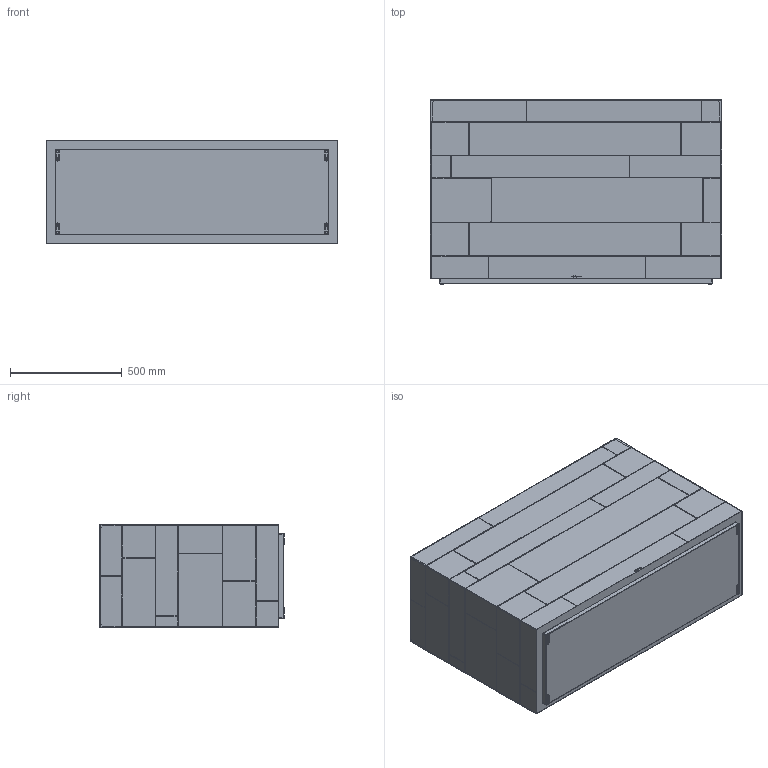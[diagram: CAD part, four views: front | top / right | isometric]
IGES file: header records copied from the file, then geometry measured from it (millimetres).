
Start section: SolidWorks IGES file using analytic representation for surfaces
Global section: file name: \\UTENTI\Dati Utenti\Tecnico\DC\2D - 3D per sito\3D\DeCastelli-3D-Celato 130 Chest of drawers.igs; native system: SolidWorks 2022; preprocessor: SolidWorks 2022; author: maria; date: 240712.143526; units: millimetre
Bounding box: 1303.09 x 824.7 x 463 mm (x, y, z)
Surface area: 8838521.6 mm2 (no closed solid volume)
Topology: 0 solids, 0 shells, 367 faces, 3396 edges, 3396 vertices
Faces by surface type: bspline 280, revolution 87
